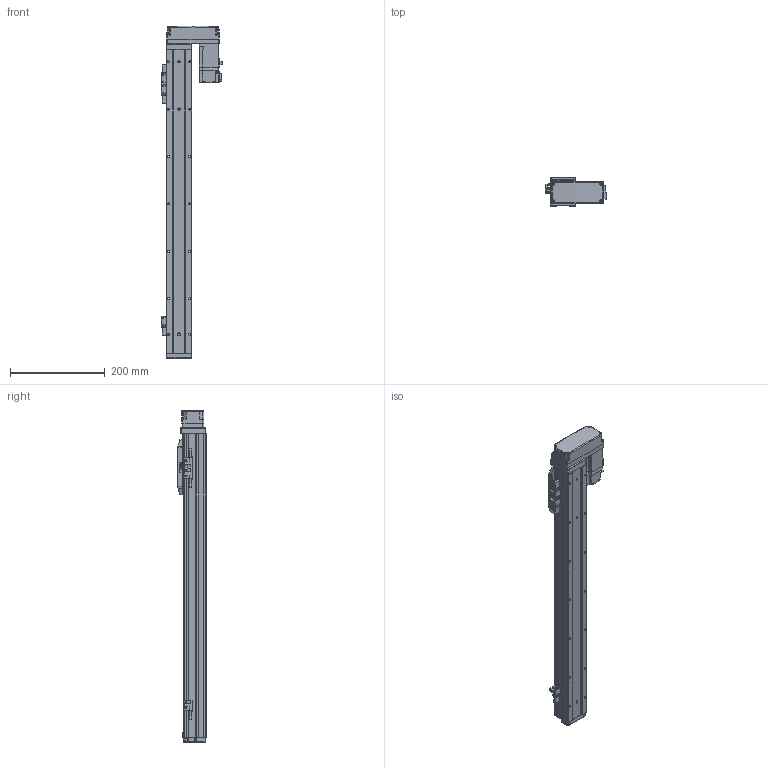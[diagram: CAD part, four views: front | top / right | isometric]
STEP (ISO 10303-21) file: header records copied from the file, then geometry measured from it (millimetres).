
FILE_DESCRIPTION (( 'STEP AP214' ), '1' );
FILE_NAME ('N_GRH5-500-BL-M10.step', '2025-03-14T09:45:38', ( '' ), ( '' ), 'SwSTEP 2.0', 'SolidWorks 2016', '' );
FILE_SCHEMA (( 'AUTOMOTIVE_DESIGN' ));
Length unit declared in the file: millimetre
Products named in the file (5): N_GRH5-GY-004^N_GRH5-500-BL-M10; N_GRH5-500-BL-M10; HF-KP13_100W_Motor^N_GRH5-500-BL-M10; N_GRH5-BL-008^N_GRH5-500-BL-M10; N_GRH5-GY-011^N_GRH5-500-BL-M10
Assembly tree (4 placements, depth 2):
  N_GRH5-500-BL-M10
    N_GRH5-GY-011^N_GRH5-500-BL-M10
    N_GRH5-GY-004^N_GRH5-500-BL-M10
    HF-KP13_100W_Motor^N_GRH5-500-BL-M10
    N_GRH5-BL-008^N_GRH5-500-BL-M10
Bounding box: 128.85 x 60 x 700.5 mm (x, y, z)
Volume: 1379962.8 mm3; surface area: 345327.5 mm2
Topology: 4 solids, 5 shells, 924 faces, 2376 edges, 1513 vertices
Faces by surface type: plane 555, cylinder 314, cone 30, bspline 15, sphere 10
Entity records: 35269 total; most frequent: CARTESIAN_POINT 5651, DIRECTION 4773, ORIENTED_EDGE 4704, EDGE_CURVE 2352, VECTOR 1631, LINE 1631, AXIS2_PLACEMENT_3D 1571, VERTEX_POINT 1511
